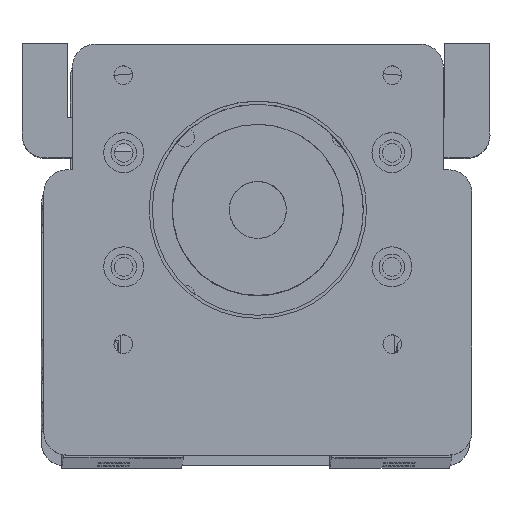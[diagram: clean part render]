
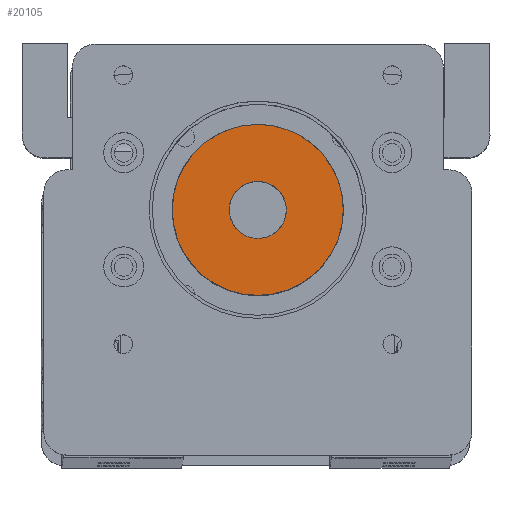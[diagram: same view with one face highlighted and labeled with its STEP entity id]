
A CAD part, top view. The second image highlights one B-rep face of the part: STEP entity #20105.
In plain terms, the highlighted planar face has unit normal (0, 0, 1).
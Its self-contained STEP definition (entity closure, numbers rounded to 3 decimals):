
#262 = CARTESIAN_POINT ( 'NONE',  ( 8.817, 0., 40.753 ) ) ;
#2646 = CARTESIAN_POINT ( 'NONE',  ( -6.16, 0., 40.753 ) ) ;
#2807 = CARTESIAN_POINT ( 'NONE',  ( -6.16, 0., 40.753 ) ) ;
#5837 = DIRECTION ( 'NONE',  ( 0., 0., 1. ) ) ;
#6514 = EDGE_CURVE ( 'NONE', #54226, #28114, #24559, .T. ) ;
#7085 = DIRECTION ( 'NONE',  ( 1., 0., 0. ) ) ;
#7234 = FACE_OUTER_BOUND ( 'NONE', #47407, .T. ) ;
#7947 = CARTESIAN_POINT ( 'NONE',  ( -6.16, 0., 40.753 ) ) ;
#11415 = VERTEX_POINT ( 'NONE', #40755 ) ;
#12270 = DIRECTION ( 'NONE',  ( 1., 0., 0. ) ) ;
#13276 = CIRCLE ( 'NONE', #50655, 5.003 ) ;
#13867 = AXIS2_PLACEMENT_3D ( 'NONE', #2646, #19806, #49528 ) ;
#14501 = EDGE_LOOP ( 'NONE', ( #17438, #46794 ) ) ;
#17288 = FACE_BOUND ( 'NONE', #14501, .T. ) ;
#17438 = ORIENTED_EDGE ( 'NONE', *, *, #33103, .F. ) ;
#19806 = DIRECTION ( 'NONE',  ( 0., 0., 1. ) ) ;
#20105 = ADVANCED_FACE ( 'NONE', ( #7234, #17288 ), #32397, .T. ) ;
#21489 = DIRECTION ( 'NONE',  ( 0., 0., 1. ) ) ;
#24109 = AXIS2_PLACEMENT_3D ( 'NONE', #46919, #21489, #51202 ) ;
#24559 = CIRCLE ( 'NONE', #24109, 14.978 ) ;
#25196 = VERTEX_POINT ( 'NONE', #52262 ) ;
#28114 = VERTEX_POINT ( 'NONE', #39880 ) ;
#29073 = AXIS2_PLACEMENT_3D ( 'NONE', #7947, #37706, #12270 ) ;
#31336 = CARTESIAN_POINT ( 'NONE',  ( -6.16, 0., 40.753 ) ) ;
#32309 = AXIS2_PLACEMENT_3D ( 'NONE', #2807, #32555, #7085 ) ;
#32397 = PLANE ( 'NONE',  #13867 ) ;
#32555 = DIRECTION ( 'NONE',  ( 0., 0., 1. ) ) ;
#33103 = EDGE_CURVE ( 'NONE', #11415, #25196, #13276, .T. ) ;
#33327 = ORIENTED_EDGE ( 'NONE', *, *, #6514, .T. ) ;
#35571 = DIRECTION ( 'NONE',  ( 1., 0., 0. ) ) ;
#37690 = CIRCLE ( 'NONE', #32309, 5.003 ) ;
#37706 = DIRECTION ( 'NONE',  ( 0., 0., 1. ) ) ;
#38558 = EDGE_CURVE ( 'NONE', #25196, #11415, #37690, .T. ) ;
#39880 = CARTESIAN_POINT ( 'NONE',  ( -21.138, 0., 40.753 ) ) ;
#40755 = CARTESIAN_POINT ( 'NONE',  ( -11.163, 0., 40.753 ) ) ;
#40970 = ORIENTED_EDGE ( 'NONE', *, *, #51577, .T. ) ;
#46794 = ORIENTED_EDGE ( 'NONE', *, *, #38558, .F. ) ;
#46919 = CARTESIAN_POINT ( 'NONE',  ( -6.16, 0., 40.753 ) ) ;
#47407 = EDGE_LOOP ( 'NONE', ( #40970, #33327 ) ) ;
#48027 = CIRCLE ( 'NONE', #29073, 14.978 ) ;
#49528 = DIRECTION ( 'NONE',  ( 1., 0., 0. ) ) ;
#50655 = AXIS2_PLACEMENT_3D ( 'NONE', #31336, #5837, #35571 ) ;
#51202 = DIRECTION ( 'NONE',  ( 1., 0., 0. ) ) ;
#51577 = EDGE_CURVE ( 'NONE', #28114, #54226, #48027, .T. ) ;
#52262 = CARTESIAN_POINT ( 'NONE',  ( -1.157, 0., 40.753 ) ) ;
#54226 = VERTEX_POINT ( 'NONE', #262 ) ;
